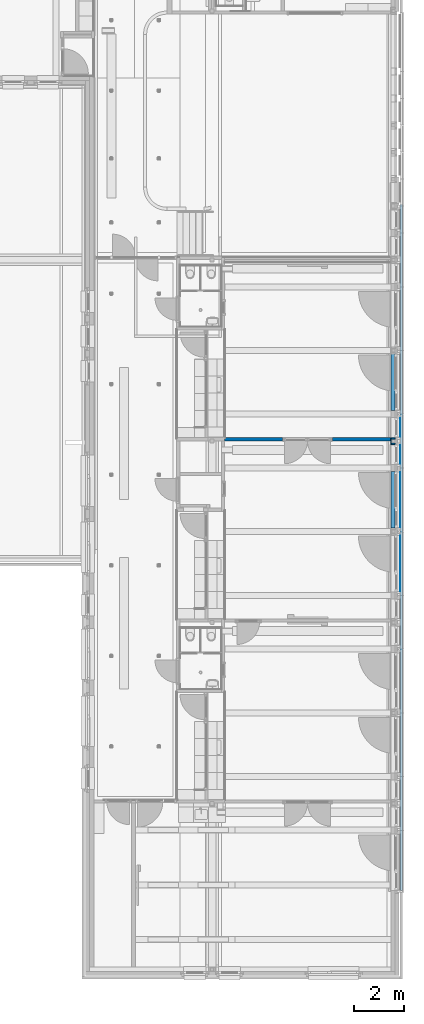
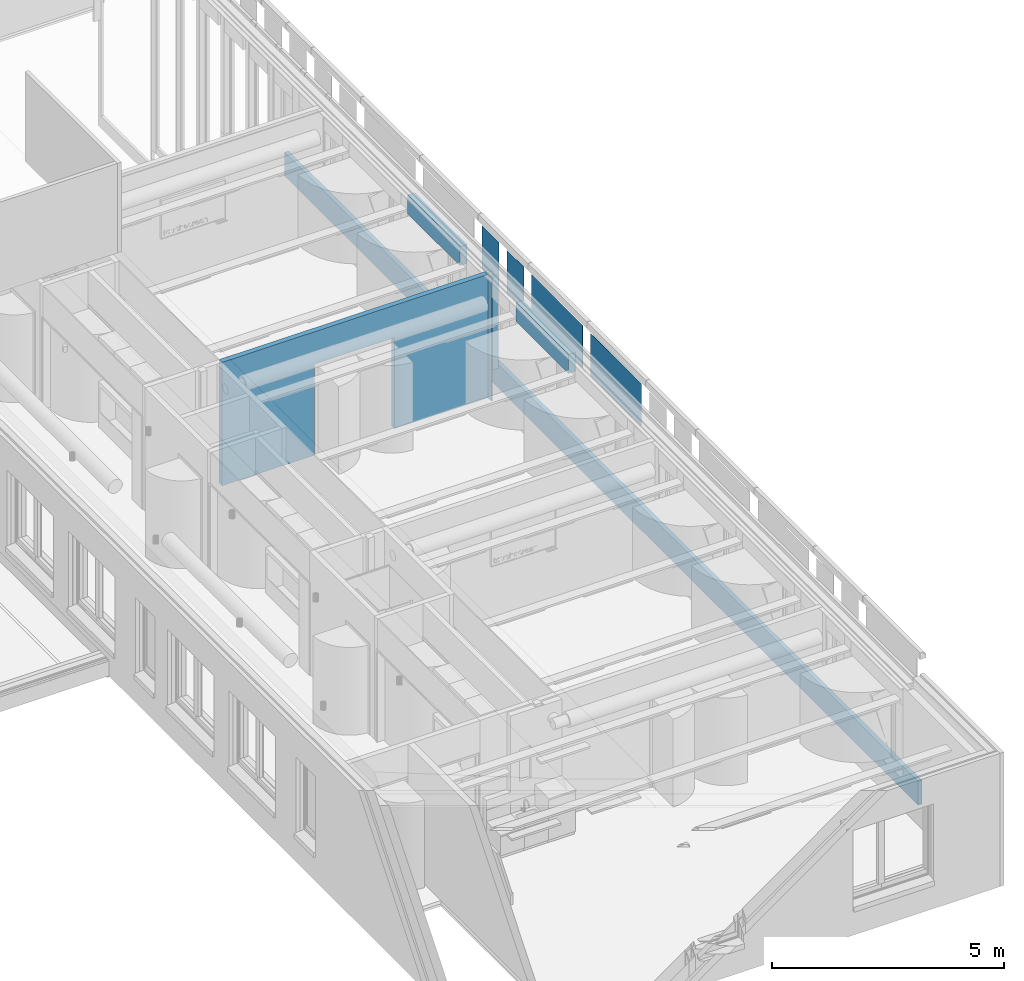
# One storey, part 39 of 128: 11 walls, 1 opening.
"""IFC2X3 building model written with IfcOpenShell, lengths in millimetres."""

from ifc_helpers import new_model, entity, si_unit, converted_unit, derived_unit, direction, frame, frame_2d, origin, place, context, subcontext, project, spatial, rectangle, extrude, material, layer, layer_set, layer_usage, type_object, element, save


model = new_model("IFC2X3")

# Units and contexts
model_context = context("Model", 3, precision=0.01, world=origin(), true_north=direction((6.123031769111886e-17, 1.0)))
body_context = subcontext(model_context, "Body", "Model", "MODEL_VIEW")
ifc_project = project(units=[si_unit("LENGTHUNIT", "METRE", prefix="MILLI"), si_unit("AREAUNIT", "SQUARE_METRE"), si_unit("VOLUMEUNIT", "CUBIC_METRE"), converted_unit("PLANEANGLEUNIT", "DEGREE", entity("IfcRatioMeasure", 0.017453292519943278), si_unit("PLANEANGLEUNIT", "RADIAN"), dimensions=[0, 0, 0, 0, 0, 0, 0]), si_unit("MASSUNIT", "GRAM", prefix="KILO"), derived_unit("MASSDENSITYUNIT", [(si_unit("MASSUNIT", "GRAM", prefix="KILO"), 1), (si_unit("LENGTHUNIT", "METRE"), -3)]), derived_unit("IONCONCENTRATIONUNIT", [(si_unit("MASSUNIT", "GRAM", prefix="KILO"), 1), (si_unit("LENGTHUNIT", "METRE"), -3)]), derived_unit("MOMENTOFINERTIAUNIT", [(si_unit("LENGTHUNIT", "METRE"), 4)]), si_unit("TIMEUNIT", "SECOND"), si_unit("FREQUENCYUNIT", "HERTZ"), si_unit("THERMODYNAMICTEMPERATUREUNIT", "DEGREE_CELSIUS"), derived_unit("THERMALTRANSMITTANCEUNIT", [(si_unit("MASSUNIT", "GRAM", prefix="KILO"), 1), (si_unit("THERMODYNAMICTEMPERATUREUNIT", "KELVIN"), -1), (si_unit("TIMEUNIT", "SECOND"), -3)]), derived_unit("THERMALCONDUCTANCEUNIT", [(si_unit("MASSUNIT", "GRAM", prefix="KILO"), 1), (si_unit("THERMODYNAMICTEMPERATUREUNIT", "KELVIN"), -1), (si_unit("TIMEUNIT", "SECOND"), -3), (si_unit("LENGTHUNIT", "METRE"), 1)]), derived_unit("VOLUMETRICFLOWRATEUNIT", [(si_unit("LENGTHUNIT", "METRE"), 3), (si_unit("TIMEUNIT", "SECOND"), -1)]), derived_unit("MASSFLOWRATEUNIT", [(si_unit("MASSUNIT", "GRAM", prefix="KILO"), 1), (si_unit("TIMEUNIT", "SECOND"), -1)]), derived_unit("ROTATIONALFREQUENCYUNIT", [(si_unit("TIMEUNIT", "SECOND"), -1)]), si_unit("ELECTRICCURRENTUNIT", "AMPERE"), si_unit("ELECTRICVOLTAGEUNIT", "VOLT"), si_unit("POWERUNIT", "WATT"), si_unit("FORCEUNIT", "NEWTON", prefix="KILO"), si_unit("ILLUMINANCEUNIT", "LUX"), si_unit("LUMINOUSFLUXUNIT", "LUMEN"), si_unit("LUMINOUSINTENSITYUNIT", "CANDELA"), derived_unit("USERDEFINED", [(si_unit("MASSUNIT", "GRAM", prefix="KILO"), -1), (si_unit("LENGTHUNIT", "METRE"), -2), (si_unit("TIMEUNIT", "SECOND"), 3), (si_unit("LUMINOUSFLUXUNIT", "LUMEN"), 1)]), derived_unit("USERDEFINED", [(si_unit("MASSUNIT", "GRAM", prefix="KILO"), 1), (si_unit("TIMEUNIT", "SECOND"), -3), (si_unit("LENGTHUNIT", "METRE"), 3), (si_unit("ELECTRICCURRENTUNIT", "AMPERE"), -2)]), derived_unit("SOUNDPOWERUNIT", [(si_unit("MASSUNIT", "GRAM", prefix="KILO"), 1), (si_unit("TIMEUNIT", "SECOND"), -3), (si_unit("LENGTHUNIT", "METRE"), 2)]), derived_unit("SOUNDPRESSUREUNIT", [(si_unit("MASSUNIT", "GRAM", prefix="KILO"), 1), (si_unit("LENGTHUNIT", "METRE"), -1), (si_unit("TIMEUNIT", "SECOND"), -2)]), derived_unit("LINEARVELOCITYUNIT", [(si_unit("LENGTHUNIT", "METRE"), 1), (si_unit("TIMEUNIT", "SECOND"), -1)]), si_unit("PRESSUREUNIT", "PASCAL"), derived_unit("USERDEFINED", [(si_unit("MASSUNIT", "GRAM", prefix="KILO"), 1), (si_unit("LENGTHUNIT", "METRE"), -2), (si_unit("TIMEUNIT", "SECOND"), -2)]), derived_unit("LINEARFORCEUNIT", [(si_unit("MASSUNIT", "GRAM", prefix="KILO"), 1), (si_unit("TIMEUNIT", "SECOND"), -2)]), derived_unit("PLANARFORCEUNIT", [(si_unit("MASSUNIT", "GRAM", prefix="KILO"), 1), (si_unit("LENGTHUNIT", "METRE"), -1), (si_unit("TIMEUNIT", "SECOND"), -2)]), derived_unit("SPECIFICHEATCAPACITYUNIT", [(si_unit("THERMODYNAMICTEMPERATUREUNIT", "KELVIN"), -1), (si_unit("LENGTHUNIT", "METRE"), 2), (si_unit("TIMEUNIT", "SECOND"), -2)]), derived_unit("HEATINGVALUEUNIT", [(si_unit("LENGTHUNIT", "METRE"), 2), (si_unit("TIMEUNIT", "SECOND"), -2)]), derived_unit("VAPORPERMEABILITYUNIT", [(si_unit("LENGTHUNIT", "METRE"), -1), (si_unit("TIMEUNIT", "SECOND"), 1)]), derived_unit("DYNAMICVISCOSITYUNIT", [(si_unit("MASSUNIT", "GRAM", prefix="KILO"), 1), (si_unit("TIMEUNIT", "SECOND"), -1), (si_unit("LENGTHUNIT", "METRE"), -1)]), derived_unit("THERMALEXPANSIONCOEFFICIENTUNIT", [(si_unit("THERMODYNAMICTEMPERATUREUNIT", "KELVIN"), -1)]), derived_unit("MODULUSOFELASTICITYUNIT", [(si_unit("MASSUNIT", "GRAM", prefix="KILO"), 1), (si_unit("LENGTHUNIT", "METRE"), -1), (si_unit("TIMEUNIT", "SECOND"), -2)]), derived_unit("ISOTHERMALMOISTURECAPACITYUNIT", [(si_unit("LENGTHUNIT", "METRE"), 3), (si_unit("MASSUNIT", "GRAM", prefix="KILO"), -1)]), derived_unit("MOISTUREDIFFUSIVITYUNIT", [(si_unit("TIMEUNIT", "SECOND"), -1), (si_unit("LENGTHUNIT", "METRE"), 2)])], contexts=[model_context])

# Site, building, storey
site_placement = place(None, frame((0.0, 300.0, 0.0)))
site = spatial("IfcSite", under=ifc_project, at=site_placement, Name="<Kadastrale nummers>", CompositionType="ELEMENT")
building_placement = place(site_placement, origin())
building = spatial("IfcBuilding", under=site, at=building_placement, CompositionType="ELEMENT")
storey_placement = place(building_placement, frame((0.0, 0.0, 3560.0000331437)))
storey = spatial("IfcBuildingStorey", under=building, at=storey_placement, Name="01 eerste verdieping", CompositionType="ELEMENT", Elevation=3560.0000331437)

# Wall
ifc_material_1 = material(Name="ISR_Metselwerk")
ifc_layer_1 = layer(ifc_material_1, 100.0)
ifc_layer_set_1 = layer_set([ifc_layer_1], Name="Basic Wall:21_DAT_metselwerk_100")
ifc_layer_usage_1 = layer_usage(ifc_layer_set_1, "AXIS2", "NEGATIVE", 50.0)
wall_type_1 = type_object("IfcWallType", Name="Basic Wall:21_DAT_metselwerk_100", PredefinedType="STANDARD", material=ifc_layer_set_1)
wall_1_placement = place(storey_placement, frame((48925.0, 5850.0, 90.00000187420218), z_axis=(0.0, 0.0, 1.0), x_axis=(0.0, 1.0, 0.0)))
element("IfcWallStandardCase", 1, at=wall_1_placement, inside=storey, type_object=wall_type_1, material=ifc_layer_usage_1, Name="Basic Wall:21_DAT_metselwerk_100", ObjectType="Basic Wall:21_DAT_metselwerk_100", context=body_context, shape_type="SweptSolid", body=[
    extrude(rectangle(XDim=27249.999999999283, YDim=99.9999999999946, at=frame_2d((13624.999999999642, -1.0658141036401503e-13), x_axis=(-1.0, 0.0))), origin(), (0.0, 0.0, 1.0), 625.0000000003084),
])

# Wall, opening
ifc_material_2 = material(Name="ISR_Gips")
ifc_layer_2 = layer(ifc_material_2, 1.0)
ifc_material_3 = material(Name="ISR_Binnenwand")
ifc_layer_3 = layer(ifc_material_3, 123.0)
ifc_layer_4 = layer(ifc_material_2, 1.0)
ifc_layer_set_2 = layer_set([ifc_layer_2, ifc_layer_3, ifc_layer_4], Name="Basic Wall:22_DAT_binnenwand_125")
ifc_layer_usage_2 = layer_usage(ifc_layer_set_2, "AXIS2", "NEGATIVE", 62.50000000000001)
wall_type_2 = type_object("IfcWallType", Name="Basic Wall:22_DAT_binnenwand_125", PredefinedType="STANDARD", material=ifc_layer_set_2)
wall_2_placement = place(storey_placement, frame((41900.0, 23772.49862327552, 90.00000187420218)))
wall_2 = element("IfcWallStandardCase", 2, at=wall_2_placement, inside=storey, type_object=wall_type_2, material=ifc_layer_usage_2, Name="Basic Wall:22_DAT_binnenwand_125", ObjectType="Basic Wall:22_DAT_binnenwand_125", context=body_context, shape_type="SweptSolid", body=[
    extrude(rectangle(XDim=6600.000000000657, YDim=125.0000000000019, at=frame_2d((3300.0000000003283, -3.4923175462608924e-12), x_axis=(1.0, 0.0))), origin(), (0.0, 0.0, 1.0), 3240.0000290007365),
])
opening_placement = place(wall_2_placement, origin())
element("IfcOpeningElement", 3, at=opening_placement, cuts=wall_2, Name="Basic Wall:22_DAT_binnenwand_125", ObjectType="Opening", context=body_context, shape_type="SweptSolid", body=[
    extrude(rectangle(XDim=2390.0000000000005, YDim=1979.9999999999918, at=frame_2d((0.0, 4.376943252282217e-12), x_axis=(1.0, 0.0))), frame((3290.0, -214.90000000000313, 1195.0), z_axis=(0.0, 1.0, 0.0), x_axis=(0.0, 0.0, 1.0)), (0.0, 0.0, 1.0), 429.8000000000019),
])

# Walls
ifc_layer_5 = layer(ifc_material_2, 1.0)
ifc_layer_6 = layer(ifc_material_3, 23.0)
ifc_layer_7 = layer(ifc_material_2, 1.0)
ifc_layer_set_3 = layer_set([ifc_layer_5, ifc_layer_6, ifc_layer_7], Name="Basic Wall:22_DAT_binnenwand_25")
ifc_layer_usage_3 = layer_usage(ifc_layer_set_3, "AXIS2", "POSITIVE", -12.499999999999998)
wall_type_3 = type_object("IfcWallType", Name="Basic Wall:22_DAT_binnenwand_25", PredefinedType="STANDARD", material=ifc_layer_set_3)
wall_3_placement = place(storey_placement, frame((48512.499999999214, 23560.0, 90.00000187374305), z_axis=(0.0, 0.0, 1.0), x_axis=(0.0, 1.0, 0.0)))
element("IfcWallStandardCase", 4, at=wall_3_placement, inside=storey, type_object=wall_type_3, material=ifc_layer_usage_3, Name="Basic Wall:22_DAT_binnenwand_25", ObjectType="Basic Wall:22_DAT_binnenwand_25", context=body_context, shape_type="SweptSolid", body=[
    extrude(rectangle(XDim=279.9999999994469, YDim=24.999999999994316, at=frame_2d((139.9999999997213, 7.194245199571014e-14), x_axis=(-1.0, 0.0))), origin(), (0.0, 0.0, 1.0), 3240.000000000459),
])
ifc_material_4 = material(Name="STAAL_RAL 7006")
ifc_layer_8 = layer(ifc_material_4, 2.0)
ifc_layer_set_4 = layer_set([ifc_layer_8], Name="Basic Wall:21_DAT_zetwerk_2")
ifc_layer_usage_4 = layer_usage(ifc_layer_set_4, "AXIS2", "NEGATIVE", 1.000000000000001)
wall_type_4 = type_object("IfcWallType", Name="Basic Wall:21_DAT_zetwerk_2", PredefinedType="STANDARD", material=ifc_layer_set_4)
wall_4_placement = place(storey_placement, frame((48871.0, 22462.0, 2829.9999668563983), z_axis=(0.0, 0.0, 1.0), x_axis=(0.0, -1.0, 0.0)))
element("IfcWallStandardCase", 5, at=wall_4_placement, inside=storey, type_object=wall_type_4, material=ifc_layer_usage_4, Name="Basic Wall:21_DAT_zetwerk_2", ObjectType="Basic Wall:21_DAT_zetwerk_2", context=body_context, shape_type="SweptSolid", body=[
    extrude(rectangle(XDim=2194.0000000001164, YDim=1.9999999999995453, at=frame_2d((1097.0000000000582, 1.3533618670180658e-12), x_axis=(-1.0, 0.0))), origin(), (0.0, 0.0, 1.0), 1120.0000000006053),
])
wall_5_placement = place(storey_placement, frame((48871.0, 19932.0, 2829.9999668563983), z_axis=(0.0, 0.0, 1.0), x_axis=(0.0, -1.0, 0.0)))
element("IfcWallStandardCase", 6, at=wall_5_placement, inside=storey, type_object=wall_type_4, material=ifc_layer_usage_4, Name="Basic Wall:21_DAT_zetwerk_2", ObjectType="Basic Wall:21_DAT_zetwerk_2", context=body_context, shape_type="SweptSolid", body=[
    extrude(rectangle(XDim=2194.000000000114, YDim=1.9999999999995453, at=frame_2d((1097.000000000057, 1.3533618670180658e-12), x_axis=(-1.0, 0.0))), origin(), (0.0, 0.0, 1.0), 1120.0000000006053),
])
for number, where, z_axis, x_axis, name in (
    (7, (48871.0, 24602.0, 2829.9999668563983), (0.0, 0.0, 1.0), (0.0, -1.0, 0.0), "Basic Wall:21_DAT_zetwerk_2"),
    (8, (48871.0, 23532.0, 2829.9999668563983), (0.0, 0.0, 1.0), (0.0, -1.0, 0.0), "Basic Wall:21_DAT_zetwerk_2"),
):
    element("IfcWallStandardCase", number, at=place(storey_placement, frame(where, z_axis=z_axis, x_axis=x_axis)), inside=storey, type_object=wall_type_4, material=ifc_layer_usage_4, Name=name, ObjectType="Basic Wall:21_DAT_zetwerk_2", context=body_context, shape_type="SweptSolid", body=[
        extrude(rectangle(XDim=733.9999999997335, YDim=1.9999999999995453, at=frame_2d((366.99999999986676, 1.0186296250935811e-12), x_axis=(-1.0, 0.0))), origin(), (0.0, 0.0, 1.0), 1120.0000000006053),
    ])
ifc_layer_9 = layer(ifc_material_2, 12.5)
ifc_layer_10 = layer(ifc_material_2, 12.5)
ifc_material_5 = material(Name="ISR_Dak_isolatie(198)")
ifc_layer_11 = layer(ifc_material_5, 140.0)
ifc_material_6 = material(Name="ISR_Multiplex")
ifc_layer_12 = layer(ifc_material_6, 10.0)
ifc_layer_set_5 = layer_set([ifc_layer_9, ifc_layer_10, ifc_layer_11, ifc_layer_12], Name="Basic Wall:21_DAT_Hekwerk 175")
ifc_layer_usage_5 = layer_usage(ifc_layer_set_5, "AXIS2", "POSITIVE", -87.5)
wall_type_5 = type_object("IfcWallType", Name="Basic Wall:21_DAT_Hekwerk 175", PredefinedType="STANDARD", material=ifc_layer_set_5)
for number, where, z_axis, x_axis, name in (
    (9, (48587.500000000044, 27160.0, 2830.0), (0.0, 0.0, 1.0), (0.0, -1.0, 0.0), "Basic Wall:21_DAT_Hekwerk 175"),
    (10, (48587.50000000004, 22490.0, 2830.0), (0.0, 0.0, 1.0), (0.0, -1.0, 0.0), "Basic Wall:21_DAT_Hekwerk 175"),
):
    element("IfcWallStandardCase", number, at=place(storey_placement, frame(where, z_axis=z_axis, x_axis=x_axis)), inside=storey, type_object=wall_type_5, material=ifc_layer_usage_5, Name=name, ObjectType="Basic Wall:21_DAT_Hekwerk 175", context=body_context, shape_type="SweptSolid", body=[
        extrude(rectangle(XDim=2249.999999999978, YDim=174.99999999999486, at=frame_2d((1124.999999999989, 0.0), x_axis=(-1.0, 0.0))), origin(), (0.0, 0.0, 1.0), 500.00003087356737),
    ])
ifc_layer_13 = layer(ifc_material_5, 140.0)
ifc_layer_14 = layer(ifc_material_6, 10.0)
ifc_layer_set_6 = layer_set([ifc_layer_13, ifc_layer_14], Name="Basic Wall:21_DAT_Hekwerk 150")
ifc_layer_usage_6 = layer_usage(ifc_layer_set_6, "AXIS2", "NEGATIVE", 75.0)
wall_type_6 = type_object("IfcWallType", Name="Basic Wall:21_DAT_Hekwerk 150", PredefinedType="STANDARD", material=ifc_layer_set_6)
wall_6_placement = place(storey_placement, frame((48600.0, 23780.0, 900.0000018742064), z_axis=(0.0, 0.0, 1.0), x_axis=(0.0, 1.0, 0.0)))
element("IfcWallStandardCase", 11, at=wall_6_placement, inside=storey, type_object=wall_type_6, material=ifc_layer_usage_6, Name="Basic Wall:21_DAT_Hekwerk 150", ObjectType="Basic Wall:21_DAT_Hekwerk 150", context=body_context, shape_type="SweptSolid", body=[
    extrude(rectangle(XDim=60.00000000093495, YDim=150.00000000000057, at=frame_2d((30.000000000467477, -1.8687273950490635e-12), x_axis=(-1.0, 0.0))), origin(), (0.0, 0.0, 1.0), 2429.9999999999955),
])
ifc_layer_usage_7 = layer_usage(ifc_layer_set_6, "AXIS2", "POSITIVE", -75.0)
wall_7_placement = place(storey_placement, frame((48600.0, 23620.0, 900.0000018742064), z_axis=(0.0, 0.0, 1.0), x_axis=(0.0, -1.0, 0.0)))
element("IfcWallStandardCase", 12, at=wall_7_placement, inside=storey, type_object=wall_type_6, material=ifc_layer_usage_7, Name="Basic Wall:21_DAT_Hekwerk 150", ObjectType="Basic Wall:21_DAT_Hekwerk 150", context=body_context, shape_type="SweptSolid", body=[
    extrude(rectangle(XDim=59.99999999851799, YDim=150.00000000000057, at=frame_2d((29.999999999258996, 2.8279600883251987e-12), x_axis=(-1.0, 0.0))), origin(), (0.0, 0.0, 1.0), 2429.9999999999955),
])

save(model, "model.ifc")
